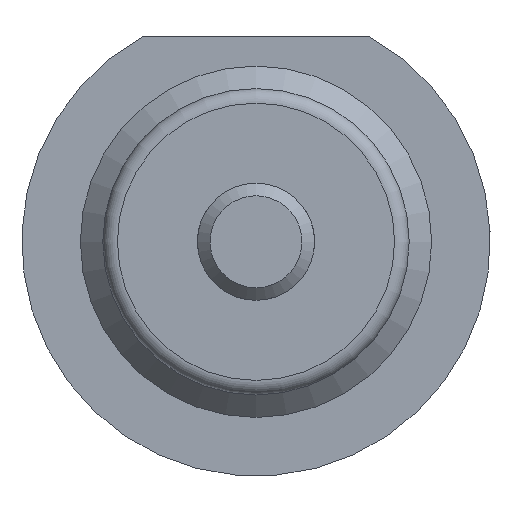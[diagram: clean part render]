
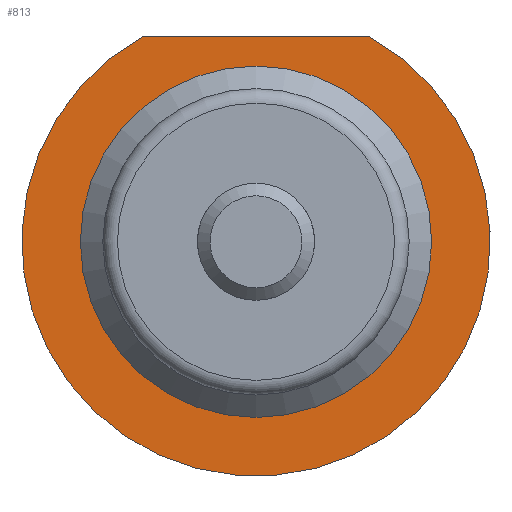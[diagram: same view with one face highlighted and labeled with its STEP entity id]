
A CAD part, left-side view. The second image highlights one B-rep face of the part: STEP entity #813.
In plain terms, the highlighted planar face has unit normal (-1, 0, 0).
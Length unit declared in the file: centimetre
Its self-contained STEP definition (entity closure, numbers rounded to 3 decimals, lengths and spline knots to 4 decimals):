
#41=PLANE($,#909);
#74=FACE_BOUND($,#330,.T.);
#123=CIRCLE($,#908,0.6);
#124=CIRCLE($,#910,0.8);
#167=LINE($,#1422,#199);
#199=VECTOR($,#1108,0.7746);
#247=FACE_OUTER_BOUND($,#329,.T.);
#329=EDGE_LOOP($,(#652,#653));
#330=EDGE_LOOP($,(#654));
#429=VERTEX_POINT($,#1416);
#430=VERTEX_POINT($,#1419);
#431=VERTEX_POINT($,#1420);
#513=EDGE_CURVE($,#429,#429,#123,.T.);
#514=EDGE_CURVE($,#430,#431,#124,.T.);
#515=EDGE_CURVE($,#430,#431,#167,.T.);
#652=ORIENTED_EDGE($,*,*,#514,.F.);
#653=ORIENTED_EDGE($,*,*,#515,.T.);
#654=ORIENTED_EDGE($,*,*,#513,.T.);
#813=ADVANCED_FACE($,(#247,#74),#41,.F.);
#908=AXIS2_PLACEMENT_3D($,#1417,#1102,#1103);
#909=AXIS2_PLACEMENT_3D($,#1418,#1104,#1105);
#910=AXIS2_PLACEMENT_3D($,#1421,#1106,#1107);
#1102=DIRECTION('center_axis',(1.,0.,0.));
#1103=DIRECTION('ref_axis',(0.,0.,
-1.));
#1104=DIRECTION('center_axis',(1.,0.,0.));
#1105=DIRECTION('ref_axis',(0.,0.,-1.));
#1106=DIRECTION('center_axis',(1.,0.,0.));
#1107=DIRECTION('ref_axis',(0.,0.,
-1.));
#1108=DIRECTION($,(0.,1.,0.));
#1416=CARTESIAN_POINT('',(1.,0.,-0.6));
#1417=CARTESIAN_POINT('Origin',(1.,0.,0.));
#1418=CARTESIAN_POINT('Origin',(1.,0.6,0.));
#1419=CARTESIAN_POINT('',(1.,-0.3873,0.7));
#1420=CARTESIAN_POINT('',(1.,0.3873,0.7));
#1421=CARTESIAN_POINT('Origin',(1.,0.,0.));
#1422=CARTESIAN_POINT($,(1.,-1.86,0.7));
